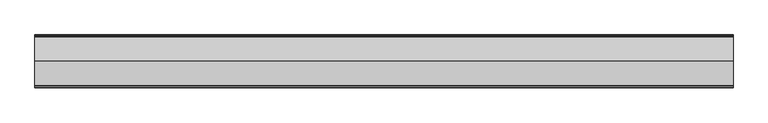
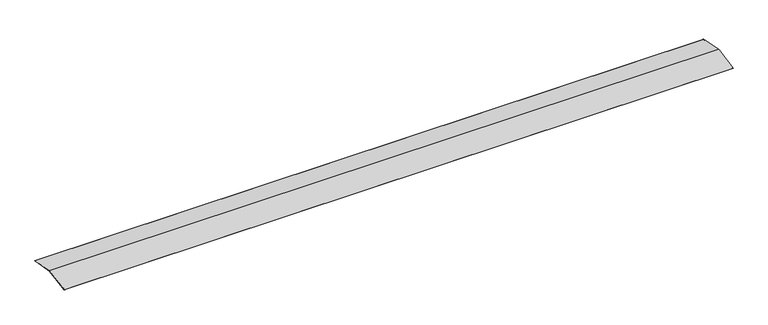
"""IFC4 building model written with IfcOpenShell, lengths in millimetres: proxy geometry, Faitaire a double plat : Faitaire a double plat."""

from ifc_helpers import new_model, si_unit, point, frame, frame_2d, origin, place, context, project, spatial, polyline, circle_curve, trimmed, segment, composite_curve, outline, extrude, source, transform, mapped, element, save


def generic_models_02f5a9cf(model_context):
    return source(origin(), model_context, "Body", "SweptSolid", [
        extrude(outline(composite_curve([segment(polyline([(-183.1742421, -31.2831344), (0.0, 1.0154266), (183.1742421, -31.2831344)]), True, "CONTINUOUS"), segment(trimmed(circle_curve(frame_2d((183.0005939, -32.2679422)), 1.0), [point((183.1742421, -31.2831344))], [point((182.8269457, -33.2527499))], False, "CARTESIAN"), True, "CONTINUOUS"), segment(polyline([(182.8269457, -33.2527499), (170.0244449, -30.9953236)]), True, "CONTINUOUS"), segment(trimmed(circle_curve(frame_2d((170.111269, -30.5029198)), 0.5), [point((170.0244449, -30.9953236))], [point((170.1980931, -30.0105159))], False, "CARTESIAN"), True, "CONTINUOUS"), segment(polyline([(170.1980931, -30.0105159), (0.0, 0.0), (-170.1980931, -30.0105159)]), True, "CONTINUOUS"), segment(trimmed(circle_curve(frame_2d((-170.111269, -30.5029198)), 0.5), [point((-170.1980931, -30.0105159))], [point((-170.0244449, -30.9953236))], False, "CARTESIAN"), True, "CONTINUOUS"), segment(polyline([(-170.0244449, -30.9953236), (-182.8269457, -33.2527499)]), True, "CONTINUOUS"), segment(trimmed(circle_curve(frame_2d((-183.0005939, -32.2679422)), 1.0), [point((-182.8269457, -33.2527499))], [point((-183.1742421, -31.2831344))], False, "CARTESIAN"), True, "CONTINUOUS")], self_intersect=False)), frame((0.0, 0.0, 0.0), z_axis=(1.0, 0.0, 0.0), x_axis=(0.0, 1.0, 0.0)), (0.0, 0.0, 1.0), 4875.0),
    ])


if __name__ == "__main__":
    model = new_model("IFC4")
    model_context = context("Model", 3, world=origin())
    ifc_project = project(units=[si_unit("LENGTHUNIT", "METRE", prefix="MILLI")], contexts=[model_context])
    site = spatial("IfcSite", under=ifc_project)
    building = spatial("IfcBuilding", under=site)
    placement = place(None, origin())
    generic_models_shape = generic_models_02f5a9cf(model_context)
    element("IfcBuildingElementProxy", 1, Name="Faitaire a double plat : Faitaire a double plat", ObjectType="Faitaire a double plat : Faitaire a double plat", at=placement, inside=building, context=model_context, shape_type="MappedRepresentation", body=[
        mapped(generic_models_shape, transform((0.0, 0.0, 0.0), x_axis=(1.0, 0.0, 0.0), y_axis=(0.0, 1.0, 0.0), z_axis=(0.0, 0.0, 1.0))),
    ])
    save(model, "model.ifc")
